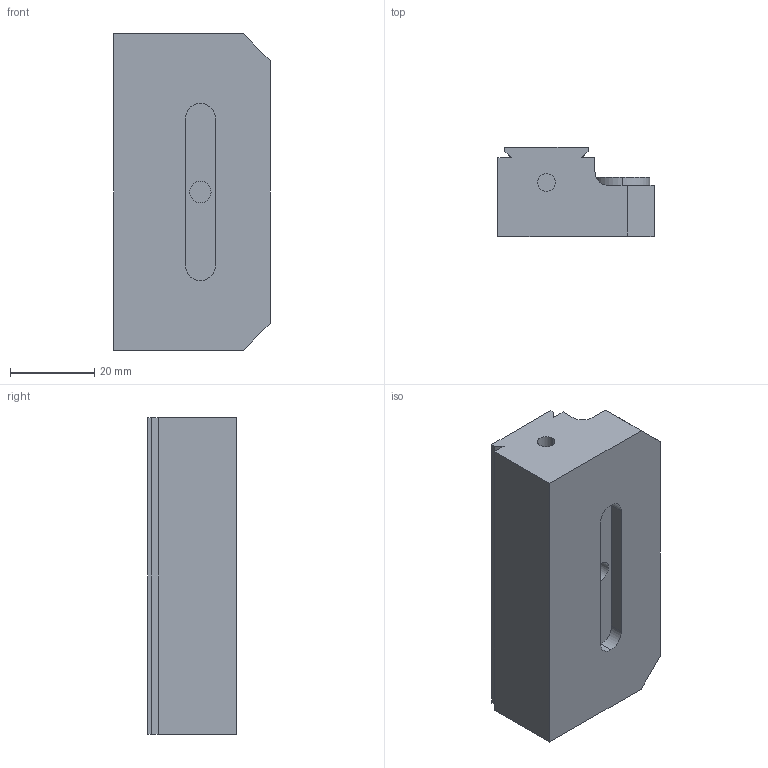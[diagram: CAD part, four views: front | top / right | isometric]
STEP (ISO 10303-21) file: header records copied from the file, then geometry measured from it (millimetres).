
FILE_DESCRIPTION (( 'STEP AP214' ), '1' );
FILE_NAME ('D_V75100X-5.STEP', '2020-07-28T17:18:44', ( '' ), ( '' ), 'SwSTEP 2.0', 'SolidWorks 2018', '' );
FILE_SCHEMA (( 'AUTOMOTIVE_DESIGN' ));
Length unit declared in the file: millimetre
Products named in the file (1): D_V75100X-5
Bounding box: 37 x 21 x 75 mm (x, y, z)
Volume: 44579.8 mm3; surface area: 13816.5 mm2
Topology: 1 solids, 1 shells, 60 faces, 144 edges, 96 vertices
Faces by surface type: plane 32, cylinder 28
Entity records: 2016 total; most frequent: CARTESIAN_POINT 373, DIRECTION 318, ORIENTED_EDGE 288, EDGE_CURVE 144, AXIS2_PLACEMENT_3D 117, VERTEX_POINT 96, LINE 84, VECTOR 84
